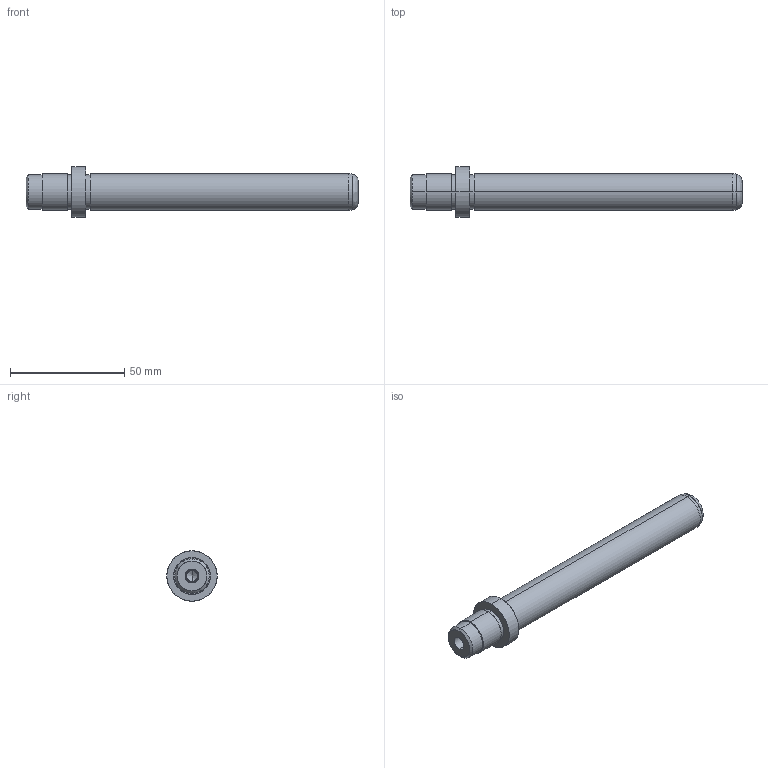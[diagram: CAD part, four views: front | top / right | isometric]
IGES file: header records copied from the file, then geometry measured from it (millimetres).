
Start section: SolidWorks IGES FILE using analytic representation for surfaces
Global section: file name: D:\zzzzz\Delta\D06\16\D06 - 16x125x20.IGS; native system: SolidWorks 2004 by SolidWorks Corporation; preprocessor: Version 5.3; author: Hkn; date: 080327.150046; units: millimetre
Bounding box: 145 x 22 x 22 mm (x, y, z)
Surface area: 9006.3 mm2 (no closed solid volume)
Topology: 0 solids, 0 shells, 39 faces, 696 edges, 692 vertices
Faces by surface type: revolution 28, bspline 11
